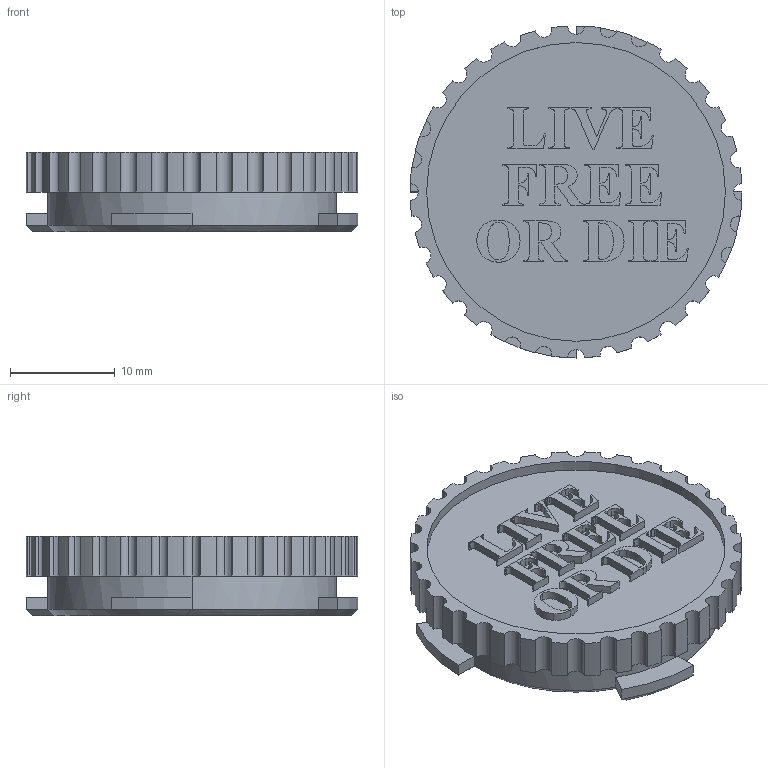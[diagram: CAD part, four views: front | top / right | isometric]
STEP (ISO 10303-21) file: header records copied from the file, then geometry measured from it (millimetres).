
FILE_DESCRIPTION (( 'STEP AP203' ), '1' );
FILE_NAME ('AF-HF-TK-PRT-004-STEP_LIVE_FREE_OR_DIE.STEP', '2020-12-04T14:02:47', ( '' ), ( '' ), 'SwSTEP 2.0', 'SolidWorks 2018', '' );
FILE_SCHEMA (( 'CONFIG_CONTROL_DESIGN' ));
Length unit declared in the file: inch
Products named in the file (1): AF-HF-TK-PRT-004-STEP_LIVE_FREE_OR_DIE
Bounding box: 31.75 x 31.75 x 7.62 mm (x, y, z)
Volume: 3722.3 mm3; surface area: 2868.7 mm2
Topology: 1 solids, 1 shells, 466 faces, 1308 edges, 864 vertices
Faces by surface type: plane 223, bspline 139, cylinder 89, cone 13, sphere 2
Entity records: 20552 total; most frequent: CARTESIAN_POINT 9258, ORIENTED_EDGE 2616, DIRECTION 1869, EDGE_CURVE 1308, VERTEX_POINT 864, VECTOR 815, LINE 815, AXIS2_PLACEMENT_3D 527
